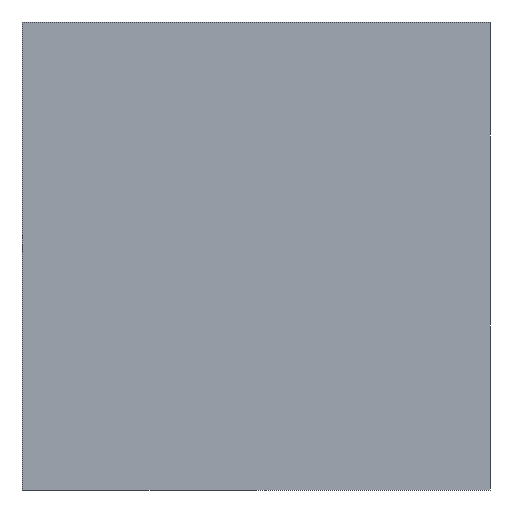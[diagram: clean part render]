
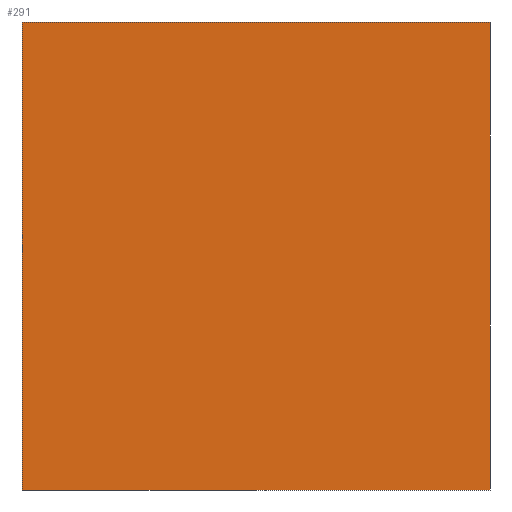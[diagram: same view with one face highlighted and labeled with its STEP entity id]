
A CAD part, left-side view. The second image highlights one B-rep face of the part: STEP entity #291.
In plain terms, the highlighted planar face has unit normal (-1, 0, 0).
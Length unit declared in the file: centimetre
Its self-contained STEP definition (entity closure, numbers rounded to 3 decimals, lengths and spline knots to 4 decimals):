
#6 = EDGE_CURVE ( 'NONE', #183, #643, #703, .T. ) ;
#10 = EDGE_LOOP ( 'NONE', ( #713, #496, #556, #272 ) ) ;
#27 = LINE ( 'NONE', #338, #455 ) ;
#62 = DIRECTION ( 'NONE',  ( 0., -1., 0. ) ) ;
#70 = CARTESIAN_POINT ( 'NONE',  ( 0., 1000., 1000. ) ) ;
#124 = VECTOR ( 'NONE', #62, 100. ) ;
#178 = CARTESIAN_POINT ( 'NONE',  ( 0., 1000., 0. ) ) ;
#183 = VERTEX_POINT ( 'NONE', #70 ) ;
#230 = CARTESIAN_POINT ( 'NONE',  ( 0., 0., 1000. ) ) ;
#272 = ORIENTED_EDGE ( 'NONE', *, *, #6, .T. ) ;
#291 = ADVANCED_FACE ( 'NONE', ( #548 ), #341, .F. ) ;
#292 = LINE ( 'NONE', #230, #759 ) ;
#338 = CARTESIAN_POINT ( 'NONE',  ( 0., 1000., 1000. ) ) ;
#341 = PLANE ( 'NONE',  #596 ) ;
#383 = CARTESIAN_POINT ( 'NONE',  ( 0., 1000., 1000. ) ) ;
#384 = CARTESIAN_POINT ( 'NONE',  ( 0., 0., 0. ) ) ;
#385 = EDGE_CURVE ( 'NONE', #183, #492, #27, .T. ) ;
#402 = VERTEX_POINT ( 'NONE', #384 ) ;
#410 = CARTESIAN_POINT ( 'NONE',  ( 0., 0., 1000. ) ) ;
#455 = VECTOR ( 'NONE', #584, 100. ) ;
#466 = EDGE_CURVE ( 'NONE', #492, #402, #292, .T. ) ;
#492 = VERTEX_POINT ( 'NONE', #410 ) ;
#496 = ORIENTED_EDGE ( 'NONE', *, *, #466, .F. ) ;
#527 = DIRECTION ( 'NONE',  ( 1., 0., 0. ) ) ;
#548 = FACE_OUTER_BOUND ( 'NONE', #10, .T. ) ;
#556 = ORIENTED_EDGE ( 'NONE', *, *, #385, .F. ) ;
#584 = DIRECTION ( 'NONE',  ( 0., -1., 0. ) ) ;
#596 = AXIS2_PLACEMENT_3D ( 'NONE', #763, #527, #711 ) ;
#598 = LINE ( 'NONE', #178, #124 ) ;
#617 = DIRECTION ( 'NONE',  ( 0., 0., -1. ) ) ;
#621 = EDGE_CURVE ( 'NONE', #643, #402, #598, .T. ) ;
#643 = VERTEX_POINT ( 'NONE', #668 ) ;
#662 = VECTOR ( 'NONE', #617, 100. ) ;
#668 = CARTESIAN_POINT ( 'NONE',  ( 0., 1000., 0. ) ) ;
#703 = LINE ( 'NONE', #383, #662 ) ;
#711 = DIRECTION ( 'NONE',  ( 0., 0., -1. ) ) ;
#713 = ORIENTED_EDGE ( 'NONE', *, *, #621, .T. ) ;
#759 = VECTOR ( 'NONE', #787, 100. ) ;
#763 = CARTESIAN_POINT ( 'NONE',  ( 0., 1000., 1000. ) ) ;
#787 = DIRECTION ( 'NONE',  ( 0., 0., -1. ) ) ;
